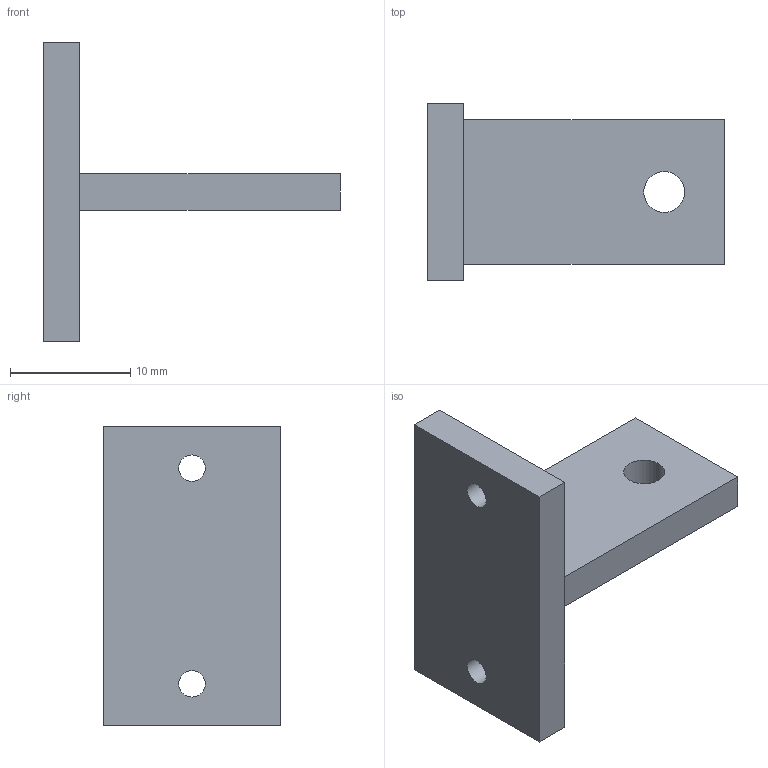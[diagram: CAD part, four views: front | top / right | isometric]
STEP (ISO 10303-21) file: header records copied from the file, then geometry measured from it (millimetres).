
FILE_DESCRIPTION(('Open CASCADE Model'),'2;1');
FILE_NAME('Open CASCADE Shape Model','2026-10-04T21:56:21',('Author'),( 'Open CASCADE'),'Open CASCADE STEP processor 7.9','Open CASCADE 7.9' ,'Unknown');
FILE_SCHEMA(('AUTOMOTIVE_DESIGN { 1 0 10303 214 1 1 1 1 }'));
Length unit declared in the file: millimetre
Products named in the file (1): Open CASCADE STEP translator 7.9 5
Bounding box: 24.65 x 14.7 x 24.9 mm (x, y, z)
Volume: 1827.4 mm3; surface area: 1659.3 mm2
Topology: 1 solids, 1 shells, 14 faces, 33 edges, 22 vertices
Faces by surface type: plane 11, cylinder 3
Full cylindrical faces by diameter (mm): 2.2 x2, 3.4 x1
Entity records: 854 total; most frequent: CARTESIAN_POINT 136, DIRECTION 135, LINE 87, VECTOR 87, ORIENTED_EDGE 66, PCURVE 66, DEFINITIONAL_REPRESENTATION 66, EDGE_CURVE 33
